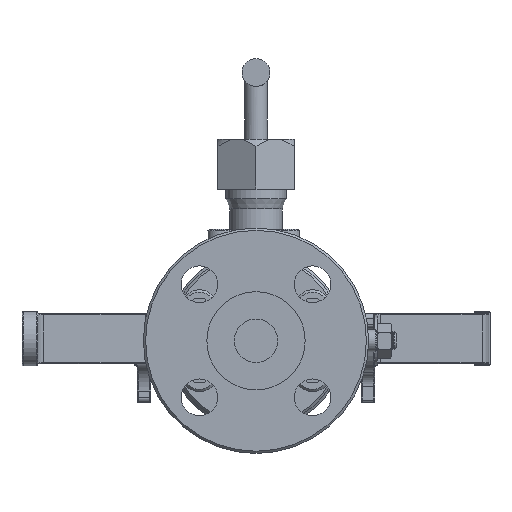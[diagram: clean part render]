
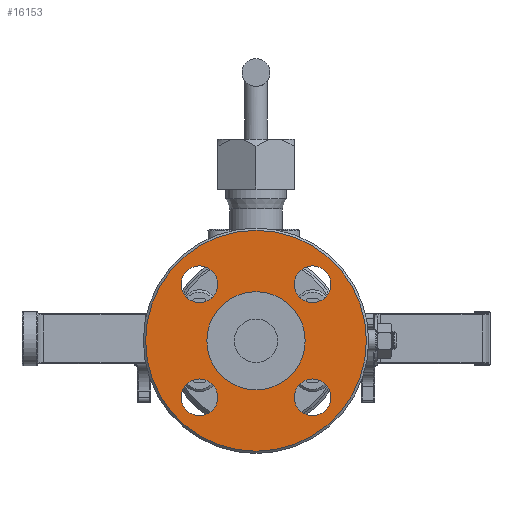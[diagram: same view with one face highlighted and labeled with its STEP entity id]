
A CAD part, left-side view. The second image highlights one B-rep face of the part: STEP entity #16153.
In plain terms, the highlighted planar face has unit normal (-1, 0, 0).
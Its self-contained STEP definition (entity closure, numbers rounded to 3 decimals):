
#3396=FACE_BOUND('',#4460,.T.);
#3397=FACE_BOUND('',#4461,.T.);
#3398=FACE_BOUND('',#4462,.T.);
#3399=FACE_BOUND('',#4463,.T.);
#3400=FACE_BOUND('',#4464,.T.);
#3511=FACE_OUTER_BOUND('',#4459,.T.);
#4459=EDGE_LOOP('',(#10708,#10709));
#4460=EDGE_LOOP('',(#10710));
#4461=EDGE_LOOP('',(#10711));
#4462=EDGE_LOOP('',(#10712));
#4463=EDGE_LOOP('',(#10713));
#4464=EDGE_LOOP('',(#10714,#10715));
#5506=CIRCLE('',#17160,8.);
#5508=CIRCLE('',#17163,8.);
#5510=CIRCLE('',#17166,8.);
#5512=CIRCLE('',#17169,8.);
#5521=CIRCLE('',#17183,21.45);
#5522=CIRCLE('',#17184,21.45);
#5523=CIRCLE('',#17186,48.2);
#5524=CIRCLE('',#17187,48.2);
#6415=VERTEX_POINT('',#23805);
#6417=VERTEX_POINT('',#23811);
#6419=VERTEX_POINT('',#23817);
#6421=VERTEX_POINT('',#23823);
#6430=VERTEX_POINT('',#23850);
#6431=VERTEX_POINT('',#23851);
#6432=VERTEX_POINT('',#23856);
#6433=VERTEX_POINT('',#23857);
#8102=EDGE_CURVE('',#6415,#6415,#5506,.T.);
#8105=EDGE_CURVE('',#6417,#6417,#5508,.T.);
#8108=EDGE_CURVE('',#6419,#6419,#5510,.T.);
#8111=EDGE_CURVE('',#6421,#6421,#5512,.T.);
#8123=EDGE_CURVE('',#6430,#6431,#5521,.T.);
#8125=EDGE_CURVE('',#6431,#6430,#5522,.T.);
#8126=EDGE_CURVE('',#6432,#6433,#5523,.T.);
#8127=EDGE_CURVE('',#6433,#6432,#5524,.T.);
#10708=ORIENTED_EDGE('',*,*,#8126,.T.);
#10709=ORIENTED_EDGE('',*,*,#8127,.T.);
#10710=ORIENTED_EDGE('',*,*,#8102,.T.);
#10711=ORIENTED_EDGE('',*,*,#8105,.T.);
#10712=ORIENTED_EDGE('',*,*,#8108,.T.);
#10713=ORIENTED_EDGE('',*,*,#8111,.T.);
#10714=ORIENTED_EDGE('',*,*,#8123,.F.);
#10715=ORIENTED_EDGE('',*,*,#8125,.F.);
#15777=PLANE('',#17185);
#16153=ADVANCED_FACE('',(#3511,#3396,#3397,#3398,#3399,#3400),#15777,.F.);
#17160=AXIS2_PLACEMENT_3D('',#23807,#19018,#19019);
#17163=AXIS2_PLACEMENT_3D('',#23813,#19025,#19026);
#17166=AXIS2_PLACEMENT_3D('',#23819,#19032,#19033);
#17169=AXIS2_PLACEMENT_3D('',#23825,#19039,#19040);
#17183=AXIS2_PLACEMENT_3D('',#23852,#19070,#19071);
#17184=AXIS2_PLACEMENT_3D('',#23854,#19073,#19074);
#17185=AXIS2_PLACEMENT_3D('',#23855,#19075,#19076);
#17186=AXIS2_PLACEMENT_3D('',#23858,#19077,#19078);
#17187=AXIS2_PLACEMENT_3D('',#23859,#19079,#19080);
#19018=DIRECTION('center_axis',(1.,0.,0.));
#19019=DIRECTION('ref_axis',(0.,0.,
-1.));
#19025=DIRECTION('center_axis',(1.,0.,0.));
#19026=DIRECTION('ref_axis',(0.,0.,
-1.));
#19032=DIRECTION('center_axis',(1.,0.,0.));
#19033=DIRECTION('ref_axis',(0.,0.,
-1.));
#19039=DIRECTION('center_axis',(1.,0.,0.));
#19040=DIRECTION('ref_axis',(0.,0.,
-1.));
#19070=DIRECTION('center_axis',(-1.,0.,0.));
#19071=DIRECTION('ref_axis',(0.,-1.,0.));
#19073=DIRECTION('center_axis',(-1.,0.,0.));
#19074=DIRECTION('ref_axis',(0.,-1.,0.));
#19075=DIRECTION('center_axis',(1.,0.,0.));
#19076=DIRECTION('ref_axis',(0.,1.,0.));
#19077=DIRECTION('center_axis',(-1.,0.,0.));
#19078=DIRECTION('ref_axis',(0.,-1.,0.));
#19079=DIRECTION('center_axis',(-1.,0.,0.));
#19080=DIRECTION('ref_axis',(0.,-1.,0.));
#23805=CARTESIAN_POINT('',(2343.618,1082.634,-16.678));
#23807=CARTESIAN_POINT('Origin',(2343.618,1082.634,-24.678));
#23811=CARTESIAN_POINT('',(2343.618,1131.991,-16.678));
#23813=CARTESIAN_POINT('Origin',(2343.618,1131.991,-24.678));
#23817=CARTESIAN_POINT('',(2343.618,1131.991,32.678));
#23819=CARTESIAN_POINT('Origin',(2343.618,1131.991,24.678));
#23823=CARTESIAN_POINT('',(2343.618,1082.634,32.678));
#23825=CARTESIAN_POINT('Origin',(2343.618,1082.634,24.678));
#23850=CARTESIAN_POINT('',(2343.618,1107.312,-21.45));
#23851=CARTESIAN_POINT('',(2343.618,1107.312,21.45));
#23852=CARTESIAN_POINT('Origin',(2343.618,1107.312,0.));
#23854=CARTESIAN_POINT('Origin',(2343.618,1107.312,0.));
#23855=CARTESIAN_POINT('Origin',(2343.618,1107.312,-48.2));
#23856=CARTESIAN_POINT('',(2343.618,1107.312,-48.2));
#23857=CARTESIAN_POINT('',(2343.618,1107.312,48.2));
#23858=CARTESIAN_POINT('Origin',(2343.618,1107.312,0.));
#23859=CARTESIAN_POINT('Origin',(2343.618,1107.312,0.));
